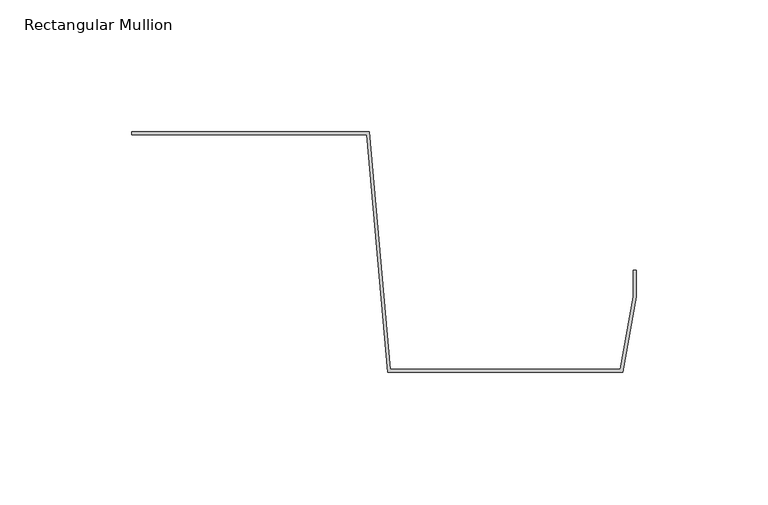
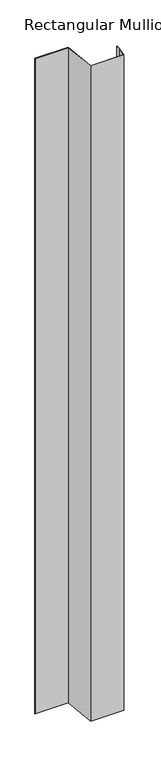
"""IFC4 building model written with IfcOpenShell, lengths in millimetres: member geometry, Rectangular Mullion : CD_NINELINE_Box End."""

from ifc_helpers import new_model, si_unit, frame, origin, place, context, project, spatial, polyline, outline, extrude, source, transform, mapped, element, save


def rectangular_mullion_41e84d55(model_context):
    return source(origin(), model_context, "Body", "SweptSolid", [
        extrude(outline(polyline([(-191.0780283, 0.0), (-101.1693243, 0.0), (-93.1693243, -90.0), (-5.9127704, -90.0), (-1.006169, -62.3975992), (-1.006169, -52.3975992), (0.0, -52.3975992), (0.0, -62.4510836), (-5.0812033, -91.0357186), (-94.0812033, -91.0357186), (-102.0843783, -1.0), (-191.0780283, -1.0), (-191.0780283, 0.0)])), frame((0.0, 0.0, -1860.0), z_axis=(0.0, 0.0, 1.0), x_axis=(1.0, 0.0, 0.0)), (0.0, 0.0, 1.0), 1860.0),
    ])


if __name__ == "__main__":
    model = new_model("IFC4")
    model_context = context("Model", 3, world=origin())
    ifc_project = project(units=[si_unit("LENGTHUNIT", "METRE", prefix="MILLI")], contexts=[model_context])
    site = spatial("IfcSite", under=ifc_project)
    building = spatial("IfcBuilding", under=site)
    placement = place(None, origin())
    rectangular_mullion_shape = rectangular_mullion_41e84d55(model_context)
    element("IfcMember", 1, ObjectType="Rectangular Mullion : CD_NINELINE_Box End", at=placement, inside=building, context=model_context, shape_type="MappedRepresentation", body=[
        mapped(rectangular_mullion_shape, transform((0.0, 0.0, 0.0), x_axis=(1.0, 0.0, 0.0), y_axis=(0.0, 1.0, 0.0), z_axis=(0.0, 0.0, 1.0))),
    ])
    save(model, "model.ifc")
